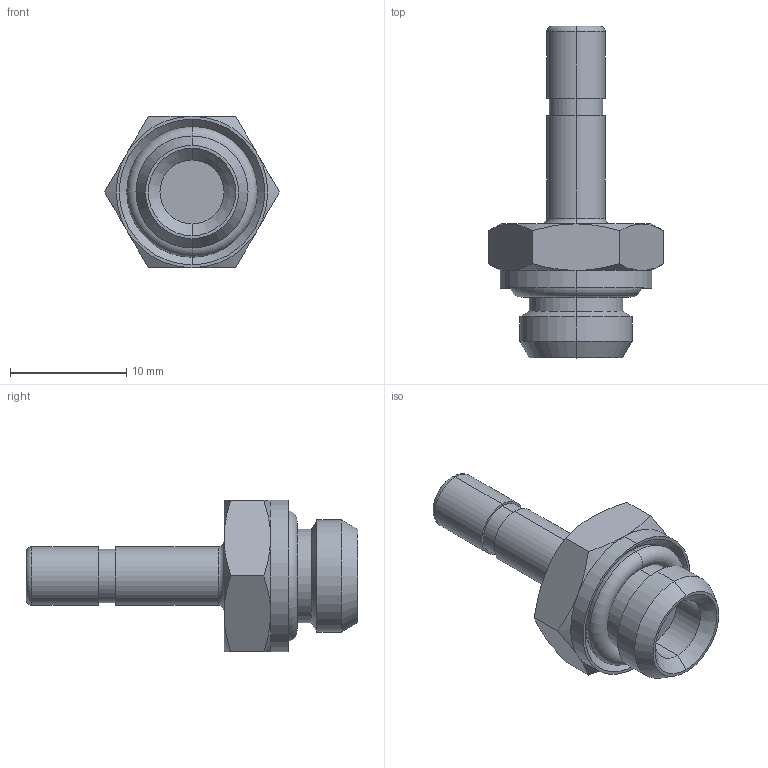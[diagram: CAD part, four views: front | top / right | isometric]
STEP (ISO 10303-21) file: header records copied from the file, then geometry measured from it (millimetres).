
FILE_DESCRIPTION (( 'STEP AP214' ), '1' );
FILE_NAME ('5060000013.step', '2012-10-01T16:59:50', ( '' ), ( '' ), 'SwSTEP 2.0', 'SolidWorks 2012', '' );
FILE_SCHEMA (( 'AUTOMOTIVE_DESIGN' ));
Length unit declared in the file: millimetre
Products named in the file (1): 5060000013
Bounding box: 15.01 x 28.5 x 13 mm (x, y, z)
Volume: 1363.9 mm3; surface area: 1275.5 mm2
Topology: 2 solids, 2 shells, 64 faces, 130 edges, 76 vertices
Faces by surface type: cone 20, cylinder 16, plane 16, torus 12
Entity records: 2513 total; most frequent: CARTESIAN_POINT 407, DIRECTION 312, ORIENTED_EDGE 260, AXIS2_PLACEMENT_3D 141, EDGE_CURVE 130, CIRCLE 76, VERTEX_POINT 76, EDGE_LOOP 72
